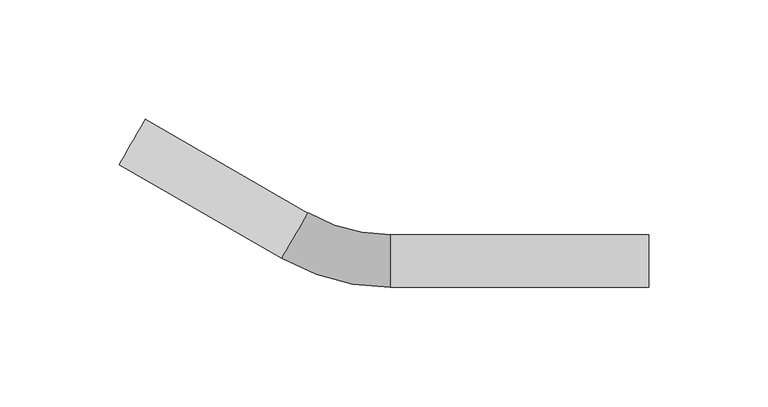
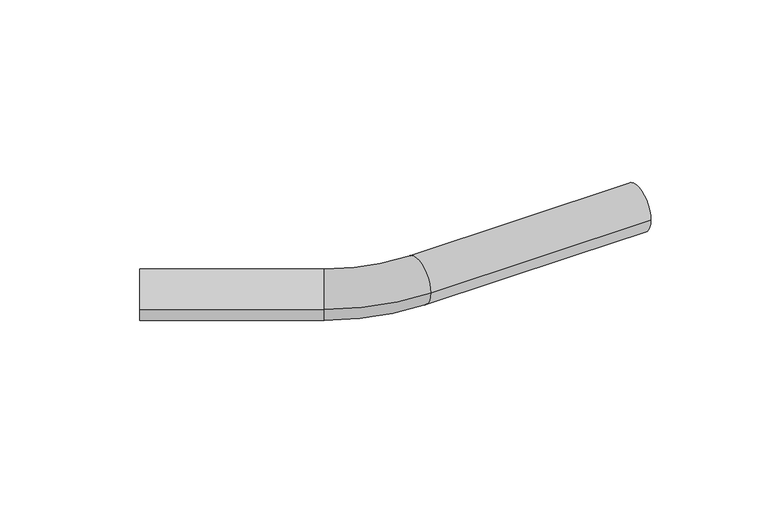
"""IFC4 building model written with IfcOpenShell, lengths in millimetres: pipe fitting geometry, VALTEC_VTi.955.I_Отвод безраструбный_нержавеющая : VTi.955.I."""

from ifc_helpers import new_model, si_unit, point, frame, origin, origin_2d, place, context, project, spatial, circle_curve, ellipse_curve, trimmed, segment, composite_curve, outline, extrude, source, transform, mapped, element, save
from ifc_brep_helpers import plane_surface, revolved_surface, advanced_brep


def pipe_fitting_21519b64(model_context):
    return source(origin(), model_context, "Body", "SolidModel", [
        advanced_brep(
        [(21.6, -11.0, 0.0), (21.6, 11.0, 0.0), (-23.9, 1.1916883, 0.0), (-12.9, 20.2442471, 0.0)],
        [
            (0, 1, circle_curve(frame((21.6, 0.0, 0.0), z_axis=(1.0, 0.0, 0.0), x_axis=(0.0, 1.0, 0.0)), 11.0)),
            (1, 0, circle_curve(frame((21.6, 0.0, 0.0), z_axis=(1.0, 0.0, 0.0), x_axis=(0.0, 1.0, 0.0)), 11.0)),
            (2, 3, circle_curve(frame((-18.4, 10.7179677, 0.0), z_axis=(-0.8660254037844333, 0.5000000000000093, 0.0), x_axis=(0.5000000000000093, 0.8660254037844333, 0.0)), 11.0)),
            (3, 2, circle_curve(frame((-18.4, 10.7179677, 0.0), z_axis=(-0.8660254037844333, 0.5000000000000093, 0.0), x_axis=(0.5000000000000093, 0.8660254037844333, 0.0)), 11.0)),
            (2, 0, circle_curve(frame((21.6, 80.0, 0.0), z_axis=(0.0, 0.0, 1.0), x_axis=(0.0, -1.0, 0.0)), 91.0)),
            (1, 3, circle_curve(frame((21.6, 80.0, 0.0), z_axis=(0.0, 0.0, -1.0), x_axis=(0.0, -1.0, 0.0)), 69.0)),
        ],
        [
            plane_surface(frame((21.6, 0.0, 0.0), z_axis=(1.0, 0.0, 0.0), x_axis=(0.0, 0.0, 1.0))),
            plane_surface(frame((-18.4, 10.7179677, 0.0), z_axis=(-0.8660254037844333, 0.5000000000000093, 0.0), x_axis=(0.0, 0.0, 1.0))),
            revolved_surface(trimmed(ellipse_curve(frame((21.6, 0.0, 0.0), z_axis=(-1.0, 0.0, 0.0), x_axis=(0.0, 1.0, 0.0)), 11.0, 11.0), [point((21.6, -11.0, 0.0))], [point((21.6, 11.0, 0.0))], True, "CARTESIAN"), (21.6, 80.0, 0.0), (0.0, 0.0, 1.0)),
            revolved_surface(trimmed(ellipse_curve(frame((21.6, 0.0, 0.0), z_axis=(-1.0, 0.0, 0.0), x_axis=(0.0, 1.0, 0.0)), 11.0, 11.0), [point((21.6, 11.0, 0.0))], [point((21.6, -11.0, 0.0))], True, "CARTESIAN"), (21.6, 80.0, 0.0), (0.0, 0.0, 1.0)),
        ],
        [
            (0, [[1, 2]]),
            (1, [[3, 4]]),
            (2, [[-3, 5, -2, 6]]),
            (3, [[-4, -6, -1, -5]]),
        ],
    ),
        extrude(outline(composite_curve([segment(trimmed(circle_curve(origin_2d(), 11.0), [point((0.0, 11.0))], [point((0.0, -11.0))], False, "CARTESIAN"), True, "CONTINUOUS"), segment(trimmed(circle_curve(origin_2d(), 11.0), [point((0.0, -11.0))], [point((0.0, 11.0))], False, "CARTESIAN"), True, "CONTINUOUS")], self_intersect=False)), frame((-18.4463411, 10.65, 0.0), z_axis=(-0.866025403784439, 0.4999999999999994, 0.0), x_axis=(0.0, 0.0, 1.0)), (0.0, 0.0, 1.0), 78.7),
        extrude(outline(composite_curve([segment(trimmed(circle_curve(origin_2d(), 11.0), [point((11.0, 0.0))], [point((-11.0, 0.0))], False, "CARTESIAN"), True, "CONTINUOUS"), segment(trimmed(circle_curve(origin_2d(), 11.0), [point((-11.0, 0.0))], [point((11.0, 0.0))], False, "CARTESIAN"), True, "CONTINUOUS")], self_intersect=False)), frame((21.6, 0.0, 0.0), z_axis=(1.0, 0.0, 0.0), x_axis=(0.0, 1.0, 0.0)), (0.0, 0.0, 1.0), 108.4),
    ])


if __name__ == "__main__":
    model = new_model("IFC4")
    model_context = context("Model", 3, world=origin())
    ifc_project = project(units=[si_unit("LENGTHUNIT", "METRE", prefix="MILLI")], contexts=[model_context])
    site = spatial("IfcSite", under=ifc_project)
    building = spatial("IfcBuilding", under=site)
    placement = place(None, origin())
    pipe_fitting_shape = pipe_fitting_21519b64(model_context)
    element("IfcPipeFitting", 1, ObjectType="VALTEC_VTi.955.I_Отвод безраструбный_нержавеющая : VTi.955.I", at=placement, inside=building, context=model_context, shape_type="MappedRepresentation", body=[
        mapped(pipe_fitting_shape, transform((0.0, 0.0, 0.0), x_axis=(1.0, 0.0, 0.0), y_axis=(0.0, 1.0, 0.0), z_axis=(0.0, 0.0, 1.0))),
    ])
    save(model, "model.ifc")
